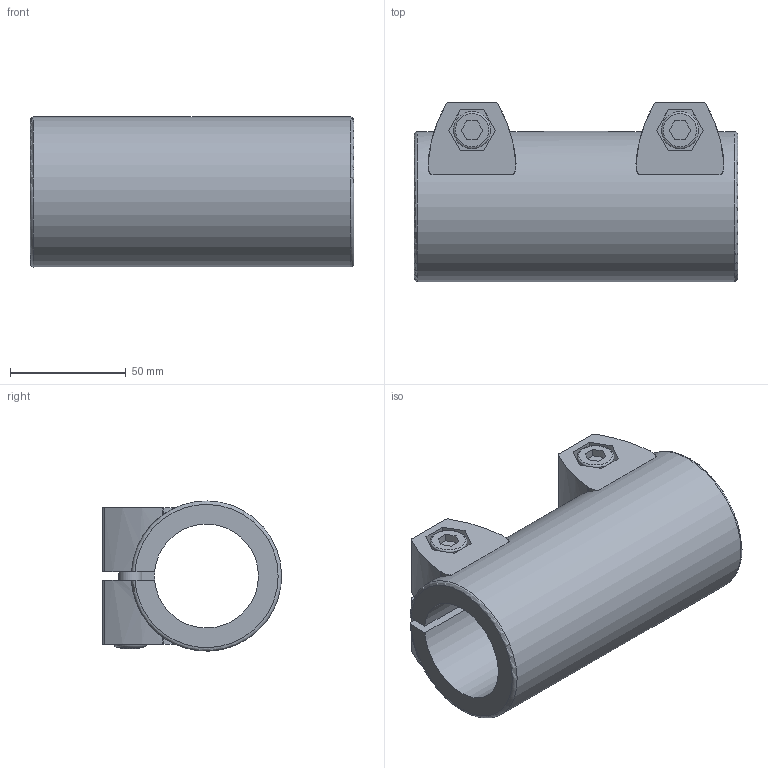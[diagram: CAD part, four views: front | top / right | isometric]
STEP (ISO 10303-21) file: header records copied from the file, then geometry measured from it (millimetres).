
FILE_DESCRIPTION( ( 'STEP AP203' ), '1' );
FILE_NAME( 'C:/Temp/Ganter_Step_05_03_2020/data/3_7/gn242/gn242_2/Tube connector GN 242-B45-B45-2-BL.stp', '2020-03-12T14:40:19', ( 'License CC BY-ND 4.0' ), ( 'CADENAS' ), ' ', 'PARTsolutions', ' ' );
FILE_SCHEMA( ( 'CONFIG_CONTROL_DESIGN' ) );
Length unit declared in the file: millimetre
Products named in the file (1): _Tube connector GN 242-B45-B45-2-BL
Bounding box: 140 x 77.48 x 64.96 mm (x, y, z)
Volume: 296697.2 mm3; surface area: 64872 mm2
Topology: 1 solids, 1 shells, 162 faces, 436 edges, 286 vertices
Faces by surface type: plane 84, cylinder 66, torus 8, cone 4
Full cylindrical faces by diameter (mm): 10 x2, 14 x2, 16 x2, 45 x1, 65 x1
Entity records: 5256 total; most frequent: CARTESIAN_POINT 1279, ORIENTED_EDGE 824, DIRECTION 782, EDGE_CURVE 412, VERTEX_POINT 282, AXIS2_PLACEMENT_3D 273, LINE 236, VECTOR 236
